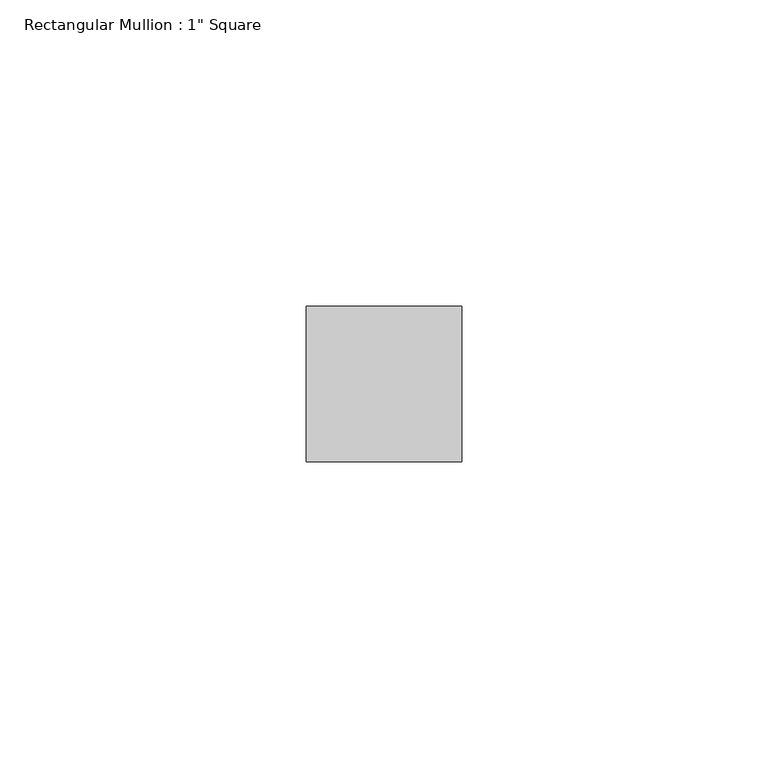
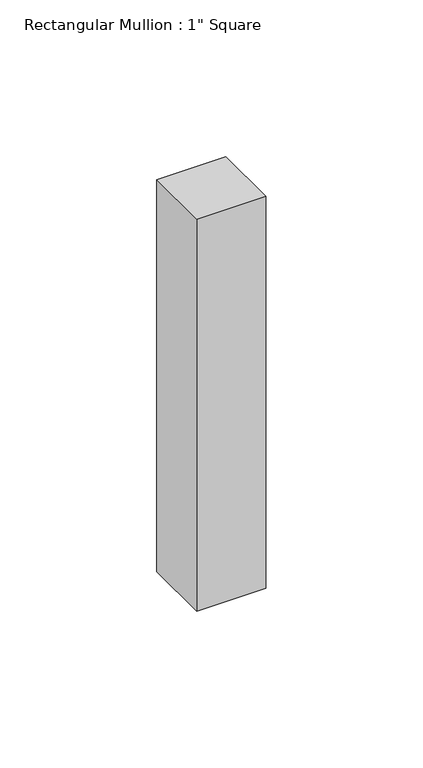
"""IFC4 building model written with IfcOpenShell, lengths in millimetres: member geometry."""

from ifc_helpers import new_model, si_unit, frame, origin, place, context, project, spatial, polyline, outline, extrude, source, transform, mapped, element, save


def member_fea202f7(model_context):
    return source(origin(), model_context, "Body", "SweptSolid", [
        extrude(outline(polyline([(12.7, 12.7), (12.7, -12.7), (-12.7, -12.7), (-12.7, 12.7), (12.7, 12.7)])), frame((0.0, 0.0, -152.4), z_axis=(0.0, 0.0, 1.0), x_axis=(1.0, 0.0, 0.0)), (0.0, 0.0, 1.0), 152.4),
    ])


if __name__ == "__main__":
    model = new_model("IFC4")
    model_context = context("Model", 3, world=origin())
    ifc_project = project(units=[si_unit("LENGTHUNIT", "METRE", prefix="MILLI")], contexts=[model_context])
    site = spatial("IfcSite", under=ifc_project)
    building = spatial("IfcBuilding", under=site)
    placement = place(None, origin())
    member_shape = member_fea202f7(model_context)
    element("IfcMember", 1, ObjectType="Rectangular Mullion : 1\" Square", at=placement, inside=building, context=model_context, shape_type="MappedRepresentation", body=[
        mapped(member_shape, transform((0.0, 0.0, 0.0), x_axis=(1.0, 0.0, 0.0), y_axis=(0.0, 1.0, 0.0), z_axis=(0.0, 0.0, 1.0))),
    ])
    save(model, "model.ifc")
